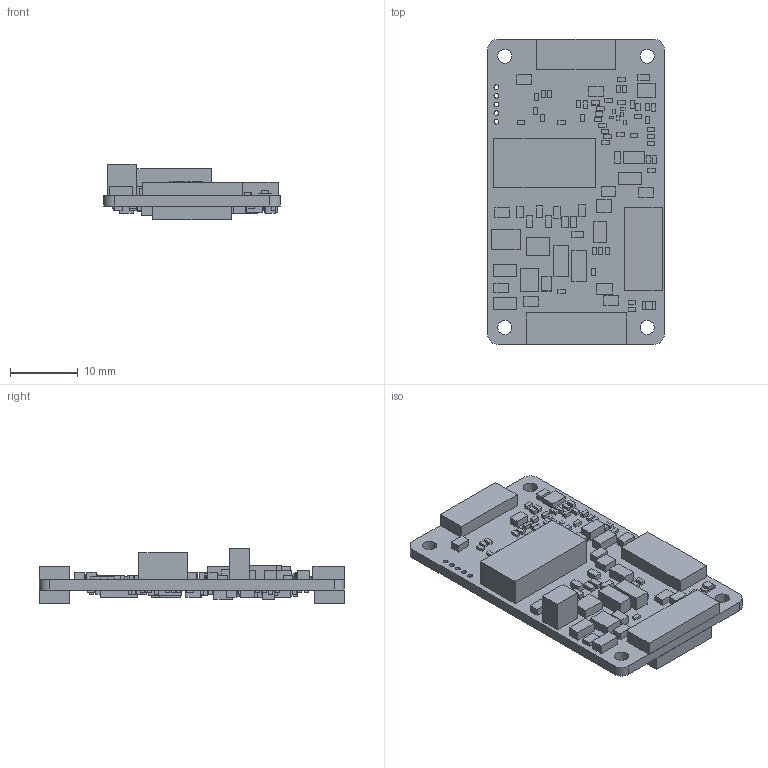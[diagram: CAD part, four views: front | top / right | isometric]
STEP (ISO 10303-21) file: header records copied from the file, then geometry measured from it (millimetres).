
FILE_DESCRIPTION(('Open CASCADE Model'),'2;1');
FILE_NAME('Open CASCADE Shape Model','2026-05-06T09:53:16',('Author'),( 'Open CASCADE'),'Open CASCADE STEP processor 7.5','Open CASCADE 7.5' ,'Unknown');
FILE_SCHEMA(('AUTOMOTIVE_DESIGN { 1 0 10303 214 1 1 1 1 }'));
Length unit declared in the file: millimetre
Products named in the file (251): PCB; Board; Open CASCADE STEP translator 7.5 1.1.1; R36; 6309893120; Extruded; C29; 6309890480; D6; 6309894480; CT4; 6309894800; R24; R22; R21; R20; C7; 6309892320; C1; J3; 7866095872; J2; J1; C129; 6309893680; U2; 6309892960; U1; R7; 6309891600; R5; R2; 6309894320; R1; 6309890640; Q8; 6309884960; Q4; 6309890320; Q1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
Assembly tree (376 placements, depth 4):
  PCB
    Board
      Open CASCADE STEP translator 7.5 1.1.1
    R36
      6309893120
        Extruded
    C29
      6309890480
        Extruded
    D6
      6309894480
        Extruded
    CT4
      6309894800
        Extruded
    R24
      6309893120
        Extruded
    R22
      6309893120
        Extruded
    R21
      6309893120
        Extruded
    R20
      6309893120
        Extruded
    C7
      6309892320
        Extruded
    C1
      6309892320
        Extruded
    J3
      7866095872
        Extruded
    J2
      7866095872
        Extruded
    J1
      7866095872
        Extruded
    C129
      6309893680
        Extruded
    U2
      6309892960
        Extruded
    U1
      6309892960
        Extruded
    R7
      6309891600
        Extruded
    R5
      6309890480
        Extruded
    R2
      6309894320
        Extruded
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Bounding box: 26 x 45.05 x 8.13 mm (x, y, z)
Volume: 3190.9 mm3; surface area: 5393 mm2
Topology: 168 solids, 168 shells, 1027 faces, 2073 edges, 1382 vertices
Faces by surface type: plane 1014, cylinder 13
Full cylindrical faces by diameter (mm): 0.7 x5, 2.1 x4
Entity records: 12902 total; most frequent: DIRECTION 1878, CARTESIAN_POINT 1577, ORIENTED_EDGE 1116, AXIS2_PLACEMENT_3D 673, PRODUCT_DEFINITION_SHAPE 627, EDGE_CURVE 558, LINE 532, VECTOR 532
